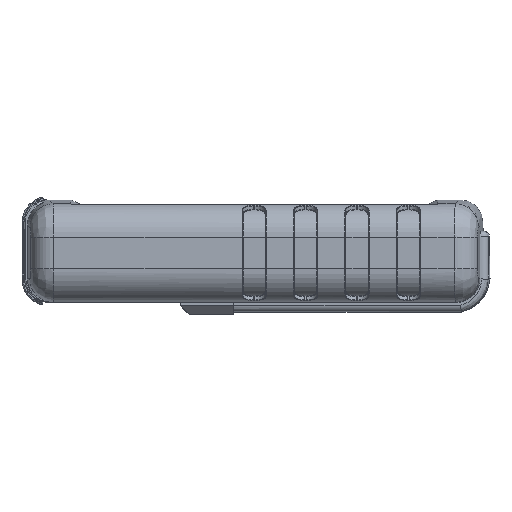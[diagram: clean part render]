
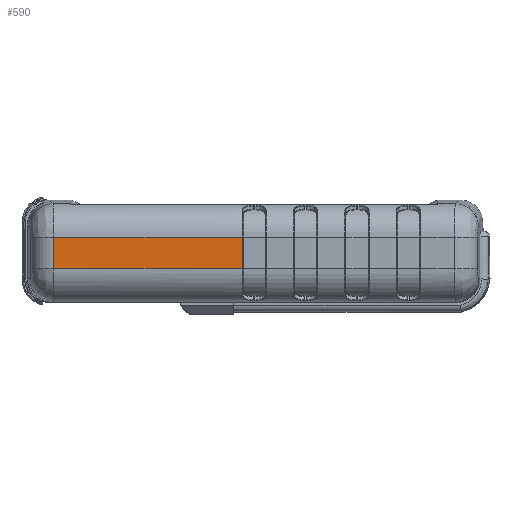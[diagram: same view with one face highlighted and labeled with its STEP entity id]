
A CAD part, top view. The second image highlights one B-rep face of the part: STEP entity #590.
In plain terms, the highlighted planar face has unit normal (0, 0, 1).
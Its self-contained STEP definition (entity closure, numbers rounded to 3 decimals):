
#400 = ORIENTED_EDGE ( 'NONE', *, *, #7156, .T. ) ;
#590 = ADVANCED_FACE ( 'NONE', ( #9109 ), #15472, .F. ) ;
#1318 = DIRECTION ( 'NONE',  ( 0., 1., 0. ) ) ;
#4896 = LINE ( 'NONE', #22756, #23336 ) ;
#4900 = CARTESIAN_POINT ( 'NONE',  ( -77.913, 25.202, 54. ) ) ;
#5595 = CARTESIAN_POINT ( 'NONE',  ( -4.7, 25.202, 54. ) ) ;
#7156 = EDGE_CURVE ( 'NONE', #36040, #15148, #12556, .T. ) ;
#9109 = FACE_OUTER_BOUND ( 'NONE', #15785, .T. ) ;
#10815 = DIRECTION ( 'NONE',  ( -1., 0., 0. ) ) ;
#11562 = EDGE_CURVE ( 'NONE', #14184, #20010, #32889, .T. ) ;
#11769 = CARTESIAN_POINT ( 'NONE',  ( -4.7, 25.202, 54. ) ) ;
#12556 = LINE ( 'NONE', #35085, #39180 ) ;
#12802 = VECTOR ( 'NONE', #1318, 1000. ) ;
#14184 = VERTEX_POINT ( 'NONE', #19241 ) ;
#14521 = ORIENTED_EDGE ( 'NONE', *, *, #38851, .T. ) ;
#14988 = DIRECTION ( 'NONE',  ( -1., 0., 0. ) ) ;
#15144 = DIRECTION ( 'NONE',  ( 0., 0., -1. ) ) ;
#15148 = VERTEX_POINT ( 'NONE', #4900 ) ;
#15472 = PLANE ( 'NONE',  #39527 ) ;
#15785 = EDGE_LOOP ( 'NONE', ( #41973, #17369, #400, #14521 ) ) ;
#16061 = CARTESIAN_POINT ( 'NONE',  ( -89.5, 40., 54. ) ) ;
#17369 = ORIENTED_EDGE ( 'NONE', *, *, #31246, .T. ) ;
#19241 = CARTESIAN_POINT ( 'NONE',  ( -77.913, 13., 54. ) ) ;
#19838 = DIRECTION ( 'NONE',  ( 0., -1., 0. ) ) ;
#20010 = VERTEX_POINT ( 'NONE', #24240 ) ;
#22732 = DIRECTION ( 'NONE',  ( 1., 0., 0. ) ) ;
#22756 = CARTESIAN_POINT ( 'NONE',  ( -77.913, 40., 54. ) ) ;
#23336 = VECTOR ( 'NONE', #19838, 1000. ) ;
#24237 = LINE ( 'NONE', #11769, #12802 ) ;
#24240 = CARTESIAN_POINT ( 'NONE',  ( -4.7, 13., 54. ) ) ;
#31246 = EDGE_CURVE ( 'NONE', #20010, #36040, #24237, .T. ) ;
#31785 = VECTOR ( 'NONE', #22732, 1000. ) ;
#32889 = LINE ( 'NONE', #36520, #31785 ) ;
#35085 = CARTESIAN_POINT ( 'NONE',  ( -89.5, 25.202, 54. ) ) ;
#36040 = VERTEX_POINT ( 'NONE', #5595 ) ;
#36520 = CARTESIAN_POINT ( 'NONE',  ( -89.5, 13., 54. ) ) ;
#38851 = EDGE_CURVE ( 'NONE', #15148, #14184, #4896, .T. ) ;
#39180 = VECTOR ( 'NONE', #10815, 1000. ) ;
#39527 = AXIS2_PLACEMENT_3D ( 'NONE', #16061, #15144, #14988 ) ;
#41973 = ORIENTED_EDGE ( 'NONE', *, *, #11562, .T. ) ;
